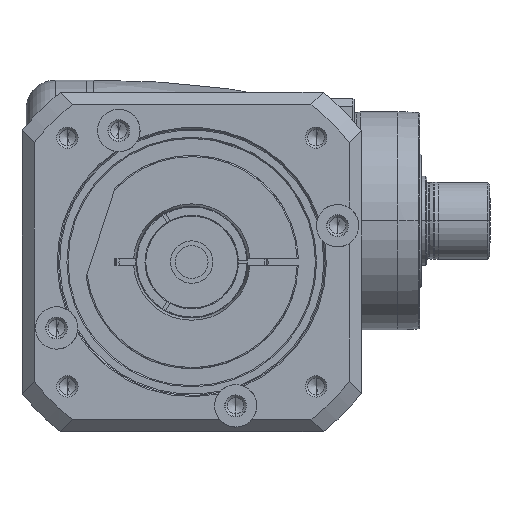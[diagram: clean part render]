
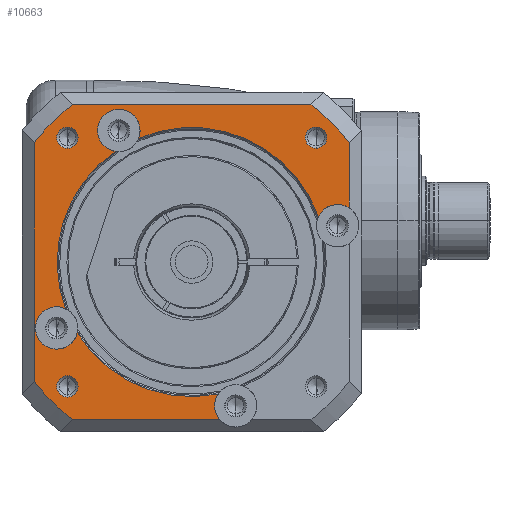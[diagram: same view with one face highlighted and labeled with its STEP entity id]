
A CAD part, front view. The second image highlights one B-rep face of the part: STEP entity #10663.
In plain terms, the highlighted planar face has unit normal (0, -1, 0) as drawn and (0, 0, 1) by its records, which use the part's own axes.
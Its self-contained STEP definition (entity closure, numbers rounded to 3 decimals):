
#8737=DIRECTION('',(1.,0.,0.));
#8738=VECTOR('',#8737,26.878);
#8739=CARTESIAN_POINT('',(-49.166,65.,56.));
#8740=LINE('',#8739,#8738);
#8741=CARTESIAN_POINT('',(-14.999,60.158,56.));
#8742=DIRECTION('',(0.,0.,1.));
#8743=DIRECTION('',(-0.833,0.553,0.));
#8744=AXIS2_PLACEMENT_3D('',#8741,#8742,#8743);
#8746=CARTESIAN_POINT('',(-14.999,60.158,56.));
#8747=DIRECTION('',(0.,0.,1.));
#8748=DIRECTION('',(-1.,0.,0.));
#8749=AXIS2_PLACEMENT_3D('',#8746,#8747,#8748);
#8751=CARTESIAN_POINT('',(-54.226,-30.058,56.));
#8752=DIRECTION('',(0.,0.,1.));
#8753=DIRECTION('',(0.371,0.929,0.));
#8754=AXIS2_PLACEMENT_3D('',#8751,#8752,#8753);
#8756=CARTESIAN_POINT('',(-54.226,-30.058,56.));
#8757=DIRECTION('',(0.,0.,1.));
#8758=DIRECTION('',(-1.,0.,0.));
#8759=AXIS2_PLACEMENT_3D('',#8756,#8757,#8758);
#8761=CARTESIAN_POINT('',(27.179,-55.725,56.));
#8762=DIRECTION('',(0.,0.,1.));
#8763=DIRECTION('',(-0.908,0.419,0.));
#8764=AXIS2_PLACEMENT_3D('',#8761,#8762,#8763);
#8766=CARTESIAN_POINT('',(27.179,-55.725,56.));
#8767=DIRECTION('',(0.,0.,1.));
#8768=DIRECTION('',(-1.,0.,0.));
#8769=AXIS2_PLACEMENT_3D('',#8766,#8767,#8768);
#8771=CARTESIAN_POINT('',(27.179,-55.725,56.));
#8772=DIRECTION('',(0.,0.,1.));
#8773=DIRECTION('',(1.,0.,0.));
#8774=AXIS2_PLACEMENT_3D('',#8771,#8772,#8773);
#8776=CARTESIAN_POINT('',(59.291,18.127,56.));
#8777=DIRECTION('',(0.,0.,1.));
#8778=DIRECTION('',(-0.556,-0.831,0.));
#8779=AXIS2_PLACEMENT_3D('',#8776,#8777,#8778);
#8781=DIRECTION('',(0.,1.,0.));
#8782=VECTOR('',#8781,60.662);
#8783=CARTESIAN_POINT('',(65.,-49.166,56.));
#8784=LINE('',#8783,#8782);
#8785=DIRECTION('',(1.,0.,0.));
#8786=VECTOR('',#8785,98.331);
#8787=CARTESIAN_POINT('',(-49.166,-65.,56.));
#8788=LINE('',#8787,#8786);
#8789=CARTESIAN_POINT('',(0.,0.,56.));
#8790=DIRECTION('',(0.,0.,1.));
#8791=DIRECTION('',(-0.798,-0.603,0.));
#8792=AXIS2_PLACEMENT_3D('',#8789,#8790,#8791);
#8794=DIRECTION('',(0.,1.,0.));
#8795=VECTOR('',#8794,98.331);
#8796=CARTESIAN_POINT('',(-65.,-49.166,56.));
#8797=LINE('',#8796,#8795);
#8836=CARTESIAN_POINT('',(0.,0.,56.));
#8837=DIRECTION('',(0.,0.,1.));
#8838=DIRECTION('',(-0.603,0.798,0.));
#8839=AXIS2_PLACEMENT_3D('',#8836,#8837,#8838);
#8846=CARTESIAN_POINT('',(0.,0.,56.));
#8847=DIRECTION('',(0.,0.,1.));
#8848=DIRECTION('',(0.603,-0.798,0.));
#8849=AXIS2_PLACEMENT_3D('',#8846,#8847,#8848);
#8875=CARTESIAN_POINT('',(-49.166,65.,56.));
#8967=CARTESIAN_POINT('',(0.,0.,56.));
#8968=DIRECTION('',(0.,0.,-1.));
#8969=DIRECTION('',(-0.919,-0.395,0.));
#8970=AXIS2_PLACEMENT_3D('',#8967,#8968,#8969);
#9003=CARTESIAN_POINT('',(0.,0.,56.));
#9004=DIRECTION('',(0.,0.,-1.));
#9005=DIRECTION('',(0.981,0.196,0.));
#9006=AXIS2_PLACEMENT_3D('',#9003,#9004,#9005);
#9015=CARTESIAN_POINT('',(0.,0.,56.));
#9016=DIRECTION('',(0.,0.,-1.));
#9017=DIRECTION('',(0.347,-0.938,0.));
#9018=AXIS2_PLACEMENT_3D('',#9015,#9016,#9017);
#9050=CARTESIAN_POINT('',(65.,-49.166,56.));
#9440=CARTESIAN_POINT('',(49.166,-65.,56.));
#9452=CARTESIAN_POINT('',(-65.,49.166,56.));
#9461=CARTESIAN_POINT('',(-51.265,51.265,56.));
#9462=DIRECTION('',(0.,0.,1.));
#9463=DIRECTION('',(-1.,0.,0.));
#9464=AXIS2_PLACEMENT_3D('',#9461,#9462,#9463);
#9479=CARTESIAN_POINT('',(-51.265,51.265,56.));
#9480=DIRECTION('',(0.,0.,1.));
#9481=DIRECTION('',(1.,0.,0.));
#9482=AXIS2_PLACEMENT_3D('',#9479,#9480,#9481);
#9569=CARTESIAN_POINT('',(51.265,-51.265,56.));
#9570=DIRECTION('',(0.,0.,1.));
#9571=DIRECTION('',(-1.,0.,0.));
#9572=AXIS2_PLACEMENT_3D('',#9569,#9570,#9571);
#9587=CARTESIAN_POINT('',(51.265,-51.265,56.));
#9588=DIRECTION('',(0.,0.,1.));
#9589=DIRECTION('',(1.,0.,0.));
#9590=AXIS2_PLACEMENT_3D('',#9587,#9588,#9589);
#9623=CARTESIAN_POINT('',(-51.265,-51.265,56.));
#9624=DIRECTION('',(0.,0.,1.));
#9625=DIRECTION('',(-1.,0.,0.));
#9626=AXIS2_PLACEMENT_3D('',#9623,#9624,#9625);
#9641=CARTESIAN_POINT('',(-51.265,-51.265,56.));
#9642=DIRECTION('',(0.,0.,1.));
#9643=DIRECTION('',(1.,0.,0.));
#9644=AXIS2_PLACEMENT_3D('',#9641,#9642,#9643);
#9731=CARTESIAN_POINT('',(-55.665,51.265,56.));
#9732=CARTESIAN_POINT('',(-46.865,51.265,56.));
#9733=VERTEX_POINT('',#9731);
#9734=VERTEX_POINT('',#9732);
#9757=CARTESIAN_POINT('',(-65.,-49.166,56.));
#9758=CARTESIAN_POINT('',(-49.166,-65.,56.));
#9759=VERTEX_POINT('',#9757);
#9760=VERTEX_POINT('',#9758);
#9773=VERTEX_POINT('',#8875);
#9776=VERTEX_POINT('',#9050);
#9777=VERTEX_POINT('',#9440);
#9780=VERTEX_POINT('',#9452);
#9781=CARTESIAN_POINT('',(-22.288,65.,56.));
#9782=VERTEX_POINT('',#9781);
#9783=CARTESIAN_POINT('',(65.,11.496,56.));
#9784=VERTEX_POINT('',#9783);
#9801=CARTESIAN_POINT('',(55.665,-51.265,56.));
#9802=CARTESIAN_POINT('',(46.865,-51.265,56.));
#9803=VERTEX_POINT('',#9801);
#9804=VERTEX_POINT('',#9802);
#9809=CARTESIAN_POINT('',(-46.865,-51.265,56.));
#9810=CARTESIAN_POINT('',(-55.665,-51.265,56.));
#9811=VERTEX_POINT('',#9809);
#9812=VERTEX_POINT('',#9810);
#9893=CARTESIAN_POINT('',(-23.749,60.158,56.));
#9894=VERTEX_POINT('',#9893);
#9905=CARTESIAN_POINT('',(-62.976,-30.058,56.));
#9906=CARTESIAN_POINT('',(-45.616,-31.614,56.));
#9907=VERTEX_POINT('',#9905);
#9908=VERTEX_POINT('',#9906);
#9909=CARTESIAN_POINT('',(-50.983,-21.932,56.));
#9910=VERTEX_POINT('',#9909);
#9921=CARTESIAN_POINT('',(18.429,-55.725,56.));
#9922=VERTEX_POINT('',#9921);
#9923=CARTESIAN_POINT('',(35.929,-55.725,56.));
#9924=VERTEX_POINT('',#9923);
#9925=CARTESIAN_POINT('',(-18.731,52.244,56.));
#9926=VERTEX_POINT('',#9925);
#9927=CARTESIAN_POINT('',(29.183,-47.208,56.));
#9928=VERTEX_POINT('',#9927);
#9946=CARTESIAN_POINT('',(54.429,10.852,56.));
#9947=VERTEX_POINT('',#9946);
#9986=CARTESIAN_POINT('',(19.233,-52.061,56.));
#9987=VERTEX_POINT('',#9986);
#10605=CARTESIAN_POINT('',(0.,0.,56.));
#10606=DIRECTION('',(0.,0.,1.));
#10607=DIRECTION('',(1.,0.,0.));
#10608=AXIS2_PLACEMENT_3D('',#10605,#10606,#10607);
#10609=PLANE('',#10608);
#10611=ORIENTED_EDGE('',*,*,#10610,.F.);
#10613=ORIENTED_EDGE('',*,*,#10612,.T.);
#10615=ORIENTED_EDGE('',*,*,#10614,.T.);
#10617=ORIENTED_EDGE('',*,*,#10616,.T.);
#10619=ORIENTED_EDGE('',*,*,#10618,.F.);
#10621=ORIENTED_EDGE('',*,*,#10620,.T.);
#10623=ORIENTED_EDGE('',*,*,#10622,.T.);
#10625=ORIENTED_EDGE('',*,*,#10624,.F.);
#10626=ORIENTED_EDGE('',*,*,#10497,.T.);
#10627=ORIENTED_EDGE('',*,*,#10530,.T.);
#10628=ORIENTED_EDGE('',*,*,#10512,.T.);
#10630=ORIENTED_EDGE('',*,*,#10629,.F.);
#10632=ORIENTED_EDGE('',*,*,#10631,.T.);
#10634=ORIENTED_EDGE('',*,*,#10633,.F.);
#10636=ORIENTED_EDGE('',*,*,#10635,.F.);
#10638=ORIENTED_EDGE('',*,*,#10637,.F.);
#10640=ORIENTED_EDGE('',*,*,#10639,.F.);
#10642=ORIENTED_EDGE('',*,*,#10641,.T.);
#10643=EDGE_LOOP('',(#10611,#10613,#10615,#10617,#10619,#10621,#10623,#10625,
#10626,#10627,#10628,#10630,#10632,#10634,#10636,#10638,#10640,#10642));
#10644=FACE_OUTER_BOUND('',#10643,.F.);
#10646=ORIENTED_EDGE('',*,*,#10645,.T.);
#10648=ORIENTED_EDGE('',*,*,#10647,.T.);
#10649=EDGE_LOOP('',(#10646,#10648));
#10650=FACE_BOUND('',#10649,.F.);
#10652=ORIENTED_EDGE('',*,*,#10651,.T.);
#10654=ORIENTED_EDGE('',*,*,#10653,.T.);
#10655=EDGE_LOOP('',(#10652,#10654));
#10656=FACE_BOUND('',#10655,.F.);
#10658=ORIENTED_EDGE('',*,*,#10657,.T.);
#10660=ORIENTED_EDGE('',*,*,#10659,.T.);
#10661=EDGE_LOOP('',(#10658,#10660));
#10662=FACE_BOUND('',#10661,.F.);
#10663=ADVANCED_FACE('',(#10644,#10650,#10656,#10662),#10609,.T.);
#8745=CIRCLE('',#8744,8.75);
#8750=CIRCLE('',#8749,8.75);
#8755=CIRCLE('',#8754,8.75);
#8760=CIRCLE('',#8759,8.75);
#8765=CIRCLE('',#8764,8.75);
#8770=CIRCLE('',#8769,8.75);
#8775=CIRCLE('',#8774,8.75);
#8780=CIRCLE('',#8779,8.75);
#8793=CIRCLE('',#8792,81.5);
#8840=CIRCLE('',#8839,81.5);
#8850=CIRCLE('',#8849,81.5);
#8971=CIRCLE('',#8970,55.5);
#9007=CIRCLE('',#9006,55.5);
#9019=CIRCLE('',#9018,55.5);
#9465=CIRCLE('',#9464,4.4);
#9483=CIRCLE('',#9482,4.4);
#9573=CIRCLE('',#9572,4.4);
#9591=CIRCLE('',#9590,4.4);
#9627=CIRCLE('',#9626,4.4);
#9645=CIRCLE('',#9644,4.4);
#10497=EDGE_CURVE('',#9987,#9922,#8765,.T.);
#10512=EDGE_CURVE('',#9924,#9928,#8775,.T.);
#10530=EDGE_CURVE('',#9922,#9924,#8770,.T.);
#10610=EDGE_CURVE('',#9773,#9780,#8840,.T.);
#10612=EDGE_CURVE('',#9773,#9782,#8740,.T.);
#10614=EDGE_CURVE('',#9782,#9894,#8745,.T.);
#10616=EDGE_CURVE('',#9894,#9926,#8750,.T.);
#10618=EDGE_CURVE('',#9910,#9926,#8971,.T.);
#10620=EDGE_CURVE('',#9910,#9907,#8755,.T.);
#10622=EDGE_CURVE('',#9907,#9908,#8760,.T.);
#10624=EDGE_CURVE('',#9987,#9908,#9019,.T.);
#10629=EDGE_CURVE('',#9947,#9928,#9007,.T.);
#10631=EDGE_CURVE('',#9947,#9784,#8780,.T.);
#10633=EDGE_CURVE('',#9776,#9784,#8784,.T.);
#10635=EDGE_CURVE('',#9777,#9776,#8850,.T.);
#10637=EDGE_CURVE('',#9760,#9777,#8788,.T.);
#10639=EDGE_CURVE('',#9759,#9760,#8793,.T.);
#10641=EDGE_CURVE('',#9759,#9780,#8797,.T.);
#10645=EDGE_CURVE('',#9733,#9734,#9465,.T.);
#10647=EDGE_CURVE('',#9734,#9733,#9483,.T.);
#10651=EDGE_CURVE('',#9804,#9803,#9573,.T.);
#10653=EDGE_CURVE('',#9803,#9804,#9591,.T.);
#10657=EDGE_CURVE('',#9812,#9811,#9627,.T.);
#10659=EDGE_CURVE('',#9811,#9812,#9645,.T.);
